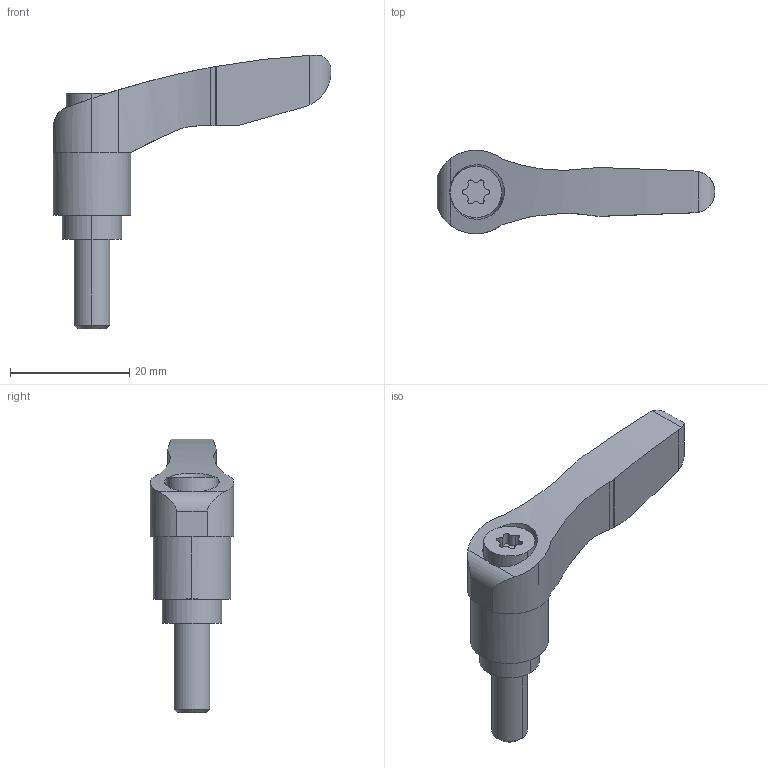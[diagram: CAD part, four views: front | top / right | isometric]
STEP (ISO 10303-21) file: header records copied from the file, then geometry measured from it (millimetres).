
FILE_DESCRIPTION (( 'STEP AP203' ), '1' );
FILE_NAME ('fkr6x15-sus.STEP', '2021-10-26T00:11:57', ( '' ), ( '' ), 'SwSTEP 2.0', 'SolidWorks 2020', '' );
FILE_SCHEMA (( 'CONFIG_CONTROL_DESIGN' ));
Length unit declared in the file: millimetre
Products named in the file (1): fkr6x15-sus
Bounding box: 46.51 x 14 x 45.87 mm (x, y, z)
Volume: 5930.4 mm3; surface area: 2821.5 mm2
Topology: 1 solids, 1 shells, 62 faces, 159 edges, 102 vertices
Faces by surface type: cylinder 42, plane 14, cone 6
Entity records: 2163 total; most frequent: CARTESIAN_POINT 598, ORIENTED_EDGE 318, DIRECTION 313, EDGE_CURVE 159, AXIS2_PLACEMENT_3D 125, VERTEX_POINT 102, EDGE_LOOP 65, VECTOR 63
